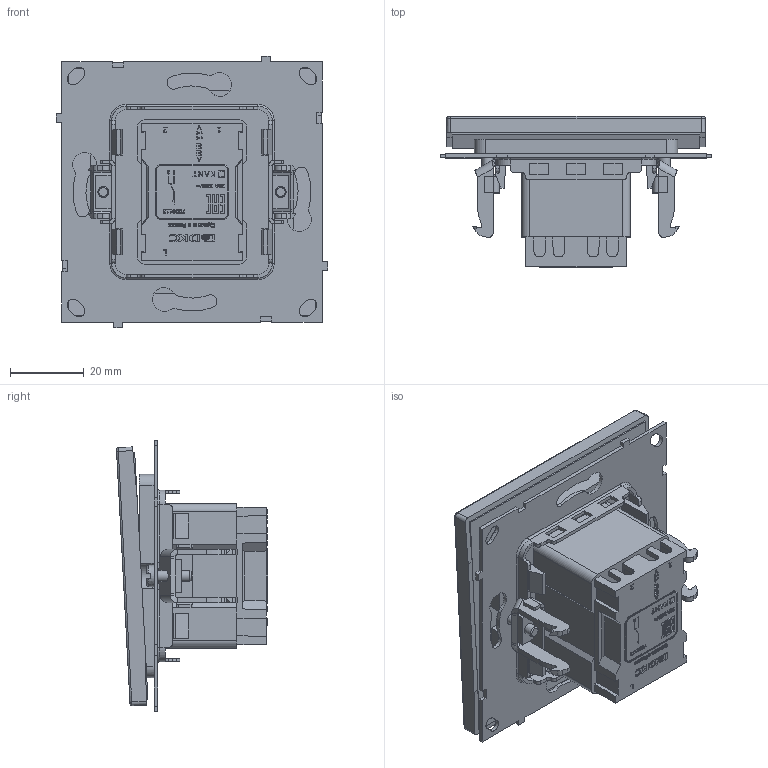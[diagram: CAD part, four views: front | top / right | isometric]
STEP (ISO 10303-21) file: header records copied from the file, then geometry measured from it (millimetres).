
FILE_DESCRIPTION (( 'STEP AP203' ), '1' );
FILE_NAME ('7000113.STEP', '2025-10-29T07:09:36', ( '' ), ( '' ), 'SwSTEP 2.0', 'SolidWorks 2022', '' );
FILE_SCHEMA (( 'CONFIG_CONTROL_DESIGN' ));
Products named in the file (1): 7000113
Bounding box: 73.5 x 40.88 x 73.5 mm (x, y, z)
Volume: 69141.2 mm3; surface area: 27962 mm2
Topology: 3 solids, 3 shells, 1487 faces, 4081 edges, 2668 vertices
Faces by surface type: plane 913, bspline 334, cylinder 206, torus 22, cone 12
Full cylindrical faces by diameter (mm): 3 x4, 3.3 x2
Entity records: 58628 total; most frequent: CARTESIAN_POINT 22877, ORIENTED_EDGE 8122, DIRECTION 6079, EDGE_CURVE 4061, LINE 2887, VECTOR 2887, VERTEX_POINT 2660, EDGE_LOOP 1623
